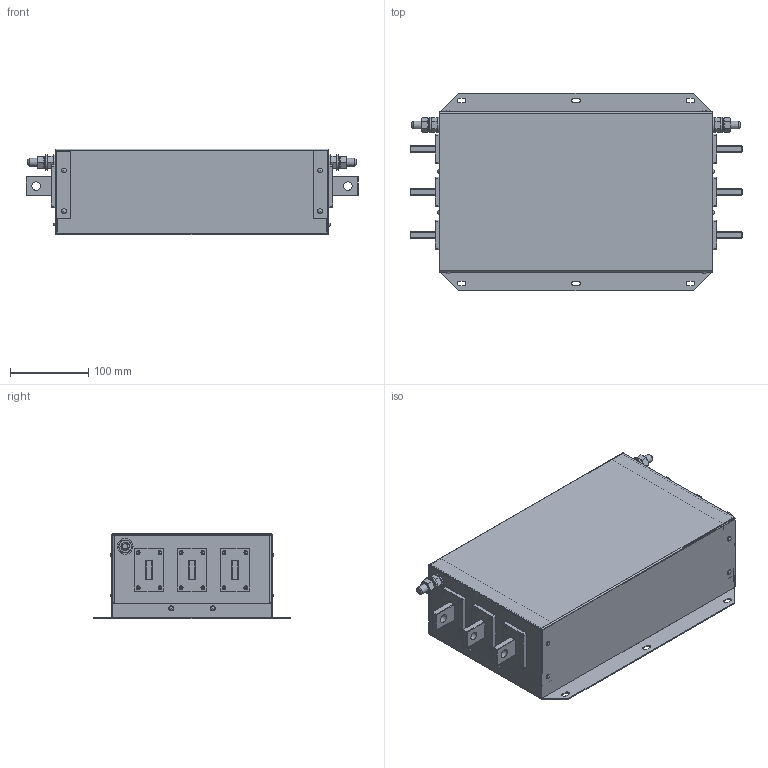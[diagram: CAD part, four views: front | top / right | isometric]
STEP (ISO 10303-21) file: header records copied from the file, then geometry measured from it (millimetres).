
FILE_DESCRIPTION(('STEP AP203'), '1');
FILE_NAME('ÝÌÑ ôèëüòð - IEF-280_543-4', '', ('UNSPECIFIED'), ('UNSPECIFIED'), 'C3D Converter', 'C3D Toolkit', '');
FILE_SCHEMA(('CONFIG_CONTROL_DESIGN'));
Length unit declared in the file: millimetre
Products named in the file (20): IEF-280_543-4; ГОСТ 10299-80; DIN 125 (A); DIN 127 (A); DIN 934; DIN 976
Assembly tree (77 placements, depth 4):
  IEF-280_543-4
    IEF-280_543-4
      IEF-280_543-4
      IEF-280_543-4
      IEF-280_543-4
      ГОСТ 10299-80  x12
        (unnamed)
      IEF-280_543-4
    DIN 125 (A)  x4
      (unnamed)
    DIN 127 (A)  x2
      (unnamed)
    DIN 934  x4
      (unnamed)
    DIN 976  x2
      (unnamed)
    IEF-280_543-4  x12
    IEF-280_543-4  x6
    ГОСТ 10299-80  x24
      (unnamed)
Bounding box: 425 x 253 x 110 mm (x, y, z)
Volume: 514458 mm3; surface area: 689959.5 mm2
Topology: 70 solids, 70 shells, 1040 faces, 2224 edges, 1384 vertices
Faces by surface type: plane 514, cylinder 332, torus 72, sphere 60, cone 60, bspline 2
Full cylindrical faces by diameter (mm): 3 x96, 3.5 x34, 5 x48, 8.376 x4, 10 x4, 10.5 x4, 11 x6, 20 x4
Entity records: 12945 total; most frequent: CARTESIAN_POINT 2374, DIRECTION 1728, ORIENTED_EDGE 1424, EDGE_CURVE 712, AXIS2_PLACEMENT_3D 643, EDGE_LOOP 544, VERTEX_POINT 486, LINE 442
